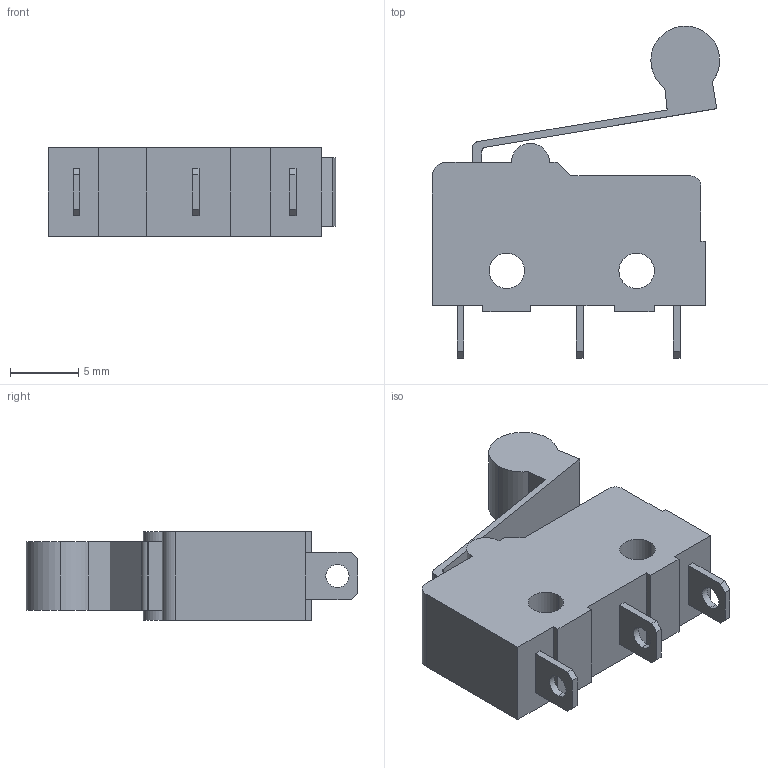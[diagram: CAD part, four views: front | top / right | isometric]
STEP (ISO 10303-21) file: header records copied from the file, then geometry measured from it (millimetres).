
FILE_DESCRIPTION (( 'STEP AP214' ), '1' );
FILE_NAME ('Pos.107 Endschalter (6x).STEP', '2017-03-12T10:12:35', ( 'C.Loibl@hotmail.com' ), ( '' ), 'SwSTEP 2.0', 'SolidWorks 2015', '' );
FILE_SCHEMA (( 'AUTOMOTIVE_DESIGN' ));
Length unit declared in the file: millimetre
Products named in the file (1): Pos.107 Endschalter (6x)
Bounding box: 21.05 x 24.3 x 6.5 mm (x, y, z)
Volume: 1438.1 mm3; surface area: 1298.3 mm2
Topology: 1 solids, 1 shells, 68 faces, 186 edges, 124 vertices
Faces by surface type: plane 48, cylinder 20
Entity records: 2666 total; most frequent: CARTESIAN_POINT 379, ORIENTED_EDGE 372, DIRECTION 364, EDGE_CURVE 186, LINE 146, VECTOR 146, VERTEX_POINT 124, AXIS2_PLACEMENT_3D 109
